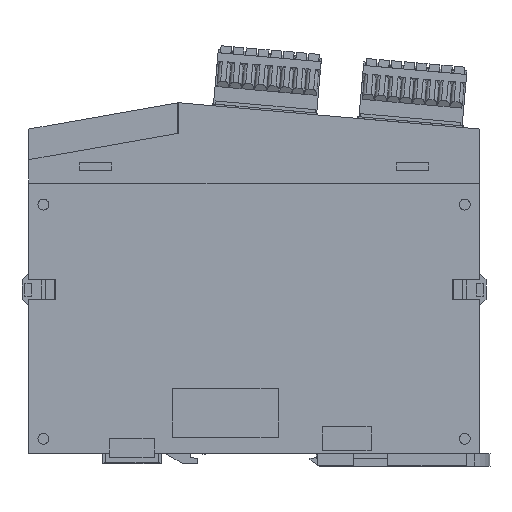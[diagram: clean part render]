
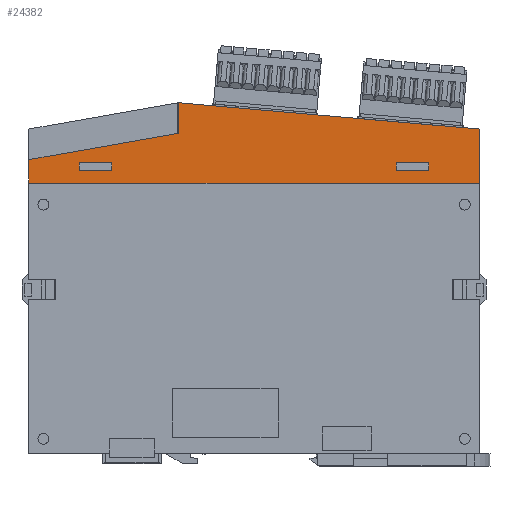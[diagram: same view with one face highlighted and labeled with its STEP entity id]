
A CAD part, left-side view. The second image highlights one B-rep face of the part: STEP entity #24382.
In plain terms, the highlighted planar face has unit normal (-1, 0, 0).
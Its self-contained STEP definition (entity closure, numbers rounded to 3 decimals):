
#7 = VERTEX_POINT ( 'NONE', #48104 ) ;
#1352 = CARTESIAN_POINT ( 'NONE',  ( -13.3, 48.5, 78.46 ) ) ;
#1357 = CARTESIAN_POINT ( 'NONE',  ( -13.3, 21.046, 97.309 ) ) ;
#1441 = DIRECTION ( 'NONE',  ( 0., 0., 1. ) ) ;
#1776 = EDGE_CURVE ( 'NONE', #34818, #30917, #39026, .T. ) ;
#1788 = CARTESIAN_POINT ( 'NONE',  ( -13.3, -48.5, 80.66 ) ) ;
#1815 = EDGE_CURVE ( 'NONE', #49473, #26073, #12560, .T. ) ;
#2195 = CARTESIAN_POINT ( 'NONE',  ( -13.3, 21.046, 88.809 ) ) ;
#2214 = DIRECTION ( 'NONE',  ( 0., 1., 0. ) ) ;
#2391 = VERTEX_POINT ( 'NONE', #29651 ) ;
#2412 = CARTESIAN_POINT ( 'NONE',  ( -13.3, 48.5, 80.66 ) ) ;
#2480 = VECTOR ( 'NONE', #32826, 1000. ) ;
#2578 = VERTEX_POINT ( 'NONE', #13145 ) ;
#2825 = EDGE_CURVE ( 'NONE', #34818, #26073, #39513, .T. ) ;
#3090 = EDGE_CURVE ( 'NONE', #30917, #31372, #48653, .T. ) ;
#3717 = AXIS2_PLACEMENT_3D ( 'NONE', #6797, #33231, #2214 ) ;
#4316 = ORIENTED_EDGE ( 'NONE', *, *, #1776, .T. ) ;
#4369 = DIRECTION ( 'NONE',  ( 0., 0.985, -0.174 ) ) ;
#4380 = CARTESIAN_POINT ( 'NONE',  ( -13.3, 21.046, 88.809 ) ) ;
#4781 = LINE ( 'NONE', #47607, #37965 ) ;
#4862 = ORIENTED_EDGE ( 'NONE', *, *, #37850, .F. ) ;
#6797 = CARTESIAN_POINT ( 'NONE',  ( -13.3, 62.5, 90. ) ) ;
#9158 = CARTESIAN_POINT ( 'NONE',  ( -13.3, 61.046, 81.756 ) ) ;
#9297 = EDGE_CURVE ( 'NONE', #2578, #23204, #44985, .T. ) ;
#9489 = LINE ( 'NONE', #21523, #39430 ) ;
#10039 = EDGE_CURVE ( 'NONE', #29072, #2391, #23616, .T. ) ;
#10473 = VECTOR ( 'NONE', #37293, 1000. ) ;
#11063 = DIRECTION ( 'NONE',  ( 0., 1., 0. ) ) ;
#11320 = LINE ( 'NONE', #15157, #12838 ) ;
#11544 = CARTESIAN_POINT ( 'NONE',  ( -13.3, 48.5, 78.46 ) ) ;
#11700 = CARTESIAN_POINT ( 'NONE',  ( -13.3, -62.5, 75. ) ) ;
#12560 = LINE ( 'NONE', #32582, #2480 ) ;
#12617 = DIRECTION ( 'NONE',  ( 0., 1., 0. ) ) ;
#12838 = VECTOR ( 'NONE', #11063, 1000. ) ;
#12917 = ORIENTED_EDGE ( 'NONE', *, *, #39303, .T. ) ;
#13031 = VECTOR ( 'NONE', #35673, 1000. ) ;
#13145 = CARTESIAN_POINT ( 'NONE',  ( -13.3, 48.5, 80.66 ) ) ;
#14216 = CARTESIAN_POINT ( 'NONE',  ( -13.3, 39.5, 80.66 ) ) ;
#14682 = ORIENTED_EDGE ( 'NONE', *, *, #37657, .T. ) ;
#15157 = CARTESIAN_POINT ( 'NONE',  ( -13.3, 62.5, 75. ) ) ;
#15280 = DIRECTION ( 'NONE',  ( 0., 1., 0. ) ) ;
#15356 = EDGE_LOOP ( 'NONE', ( #4862, #28917, #28782, #47891, #4316, #29160, #15896 ) ) ;
#15896 = ORIENTED_EDGE ( 'NONE', *, *, #28448, .T. ) ;
#15934 = ORIENTED_EDGE ( 'NONE', *, *, #27019, .T. ) ;
#16213 = CARTESIAN_POINT ( 'NONE',  ( -13.3, -48.5, 78.46 ) ) ;
#17586 = FACE_BOUND ( 'NONE', #48205, .T. ) ;
#17682 = DIRECTION ( 'NONE',  ( 0., -1., 0. ) ) ;
#18101 = CARTESIAN_POINT ( 'NONE',  ( -13.3, 62.5, 90. ) ) ;
#18131 = LINE ( 'NONE', #49683, #49697 ) ;
#18151 = VECTOR ( 'NONE', #45281, 1000. ) ;
#19357 = VERTEX_POINT ( 'NONE', #11700 ) ;
#20913 = CARTESIAN_POINT ( 'NONE',  ( -13.3, -39.5, 78.46 ) ) ;
#21000 = ORIENTED_EDGE ( 'NONE', *, *, #9297, .T. ) ;
#21422 = FACE_BOUND ( 'NONE', #25649, .T. ) ;
#21523 = CARTESIAN_POINT ( 'NONE',  ( -13.3, -39.5, 80.66 ) ) ;
#21686 = LINE ( 'NONE', #18101, #18151 ) ;
#22660 = VECTOR ( 'NONE', #12617, 1000. ) ;
#23204 = VERTEX_POINT ( 'NONE', #14216 ) ;
#23616 = LINE ( 'NONE', #1788, #26784 ) ;
#24382 = ADVANCED_FACE ( 'NONE', ( #17586, #21422, #41936 ), #37075, .F. ) ;
#24758 = LINE ( 'NONE', #40411, #40853 ) ;
#24788 = DIRECTION ( 'NONE',  ( 0., 0.985, -0.174 ) ) ;
#25249 = VERTEX_POINT ( 'NONE', #11544 ) ;
#25649 = EDGE_LOOP ( 'NONE', ( #12917, #41841, #37842, #49588 ) ) ;
#26073 = VERTEX_POINT ( 'NONE', #1357 ) ;
#26569 = CARTESIAN_POINT ( 'NONE',  ( -13.3, 62.5, 81.5 ) ) ;
#26784 = VECTOR ( 'NONE', #17682, 1000. ) ;
#27019 = EDGE_CURVE ( 'NONE', #23204, #35793, #18131, .T. ) ;
#28338 = VECTOR ( 'NONE', #15280, 1000. ) ;
#28448 = EDGE_CURVE ( 'NONE', #31372, #7, #21686, .T. ) ;
#28782 = ORIENTED_EDGE ( 'NONE', *, *, #1815, .T. ) ;
#28917 = ORIENTED_EDGE ( 'NONE', *, *, #34674, .T. ) ;
#29072 = VERTEX_POINT ( 'NONE', #34959 ) ;
#29160 = ORIENTED_EDGE ( 'NONE', *, *, #3090, .T. ) ;
#29509 = EDGE_CURVE ( 'NONE', #25249, #2578, #50281, .T. ) ;
#29651 = CARTESIAN_POINT ( 'NONE',  ( -13.3, -48.5, 80.66 ) ) ;
#29709 = DIRECTION ( 'NONE',  ( 0., 0., 1. ) ) ;
#30278 = CARTESIAN_POINT ( 'NONE',  ( -13.3, 48.5, 80.66 ) ) ;
#30917 = VERTEX_POINT ( 'NONE', #50751 ) ;
#31166 = LINE ( 'NONE', #42966, #28338 ) ;
#31372 = VERTEX_POINT ( 'NONE', #26569 ) ;
#32582 = CARTESIAN_POINT ( 'NONE',  ( -13.3, 61.55, 100.853 ) ) ;
#32726 = DIRECTION ( 'NONE',  ( 0., 0., -1. ) ) ;
#32729 = VECTOR ( 'NONE', #24788, 1000. ) ;
#32826 = DIRECTION ( 'NONE',  ( 0., 0.996, 0.087 ) ) ;
#33231 = DIRECTION ( 'NONE',  ( 1., 0., 0. ) ) ;
#33604 = VECTOR ( 'NONE', #4369, 1000. ) ;
#34674 = EDGE_CURVE ( 'NONE', #19357, #49473, #4781, .T. ) ;
#34818 = VERTEX_POINT ( 'NONE', #2195 ) ;
#34959 = CARTESIAN_POINT ( 'NONE',  ( -13.3, -39.5, 80.66 ) ) ;
#35456 = ORIENTED_EDGE ( 'NONE', *, *, #29509, .T. ) ;
#35673 = DIRECTION ( 'NONE',  ( 0., 0., 1. ) ) ;
#35793 = VERTEX_POINT ( 'NONE', #40942 ) ;
#37045 = VECTOR ( 'NONE', #42076, 1000. ) ;
#37056 = EDGE_CURVE ( 'NONE', #49676, #42625, #31166, .T. ) ;
#37075 = PLANE ( 'NONE',  #3717 ) ;
#37279 = CARTESIAN_POINT ( 'NONE',  ( -13.3, -62.5, 90. ) ) ;
#37293 = DIRECTION ( 'NONE',  ( 0., -1., 0. ) ) ;
#37657 = EDGE_CURVE ( 'NONE', #35793, #25249, #40085, .T. ) ;
#37842 = ORIENTED_EDGE ( 'NONE', *, *, #47996, .T. ) ;
#37850 = EDGE_CURVE ( 'NONE', #19357, #7, #11320, .T. ) ;
#37965 = VECTOR ( 'NONE', #1441, 1000. ) ;
#39026 = LINE ( 'NONE', #39506, #33604 ) ;
#39303 = EDGE_CURVE ( 'NONE', #42625, #29072, #9489, .T. ) ;
#39430 = VECTOR ( 'NONE', #29709, 1000. ) ;
#39506 = CARTESIAN_POINT ( 'NONE',  ( -13.3, 62.5, 81.5 ) ) ;
#39513 = LINE ( 'NONE', #4380, #13031 ) ;
#40085 = LINE ( 'NONE', #1352, #22660 ) ;
#40411 = CARTESIAN_POINT ( 'NONE',  ( -13.3, -48.5, 80.66 ) ) ;
#40853 = VECTOR ( 'NONE', #32726, 1000. ) ;
#40942 = CARTESIAN_POINT ( 'NONE',  ( -13.3, 39.5, 78.46 ) ) ;
#41841 = ORIENTED_EDGE ( 'NONE', *, *, #10039, .T. ) ;
#41936 = FACE_OUTER_BOUND ( 'NONE', #15356, .T. ) ;
#42076 = DIRECTION ( 'NONE',  ( 0., 0., 1. ) ) ;
#42490 = DIRECTION ( 'NONE',  ( 0., 0., -1. ) ) ;
#42625 = VERTEX_POINT ( 'NONE', #20913 ) ;
#42966 = CARTESIAN_POINT ( 'NONE',  ( -13.3, -48.5, 78.46 ) ) ;
#44985 = LINE ( 'NONE', #2412, #10473 ) ;
#45281 = DIRECTION ( 'NONE',  ( 0., 0., -1. ) ) ;
#47607 = CARTESIAN_POINT ( 'NONE',  ( -13.3, -62.5, 90. ) ) ;
#47891 = ORIENTED_EDGE ( 'NONE', *, *, #2825, .F. ) ;
#47996 = EDGE_CURVE ( 'NONE', #2391, #49676, #24758, .T. ) ;
#48104 = CARTESIAN_POINT ( 'NONE',  ( -13.3, 62.5, 75. ) ) ;
#48205 = EDGE_LOOP ( 'NONE', ( #14682, #35456, #21000, #15934 ) ) ;
#48653 = LINE ( 'NONE', #9158, #32729 ) ;
#49473 = VERTEX_POINT ( 'NONE', #37279 ) ;
#49588 = ORIENTED_EDGE ( 'NONE', *, *, #37056, .T. ) ;
#49676 = VERTEX_POINT ( 'NONE', #16213 ) ;
#49683 = CARTESIAN_POINT ( 'NONE',  ( -13.3, 39.5, 80.66 ) ) ;
#49697 = VECTOR ( 'NONE', #42490, 1000. ) ;
#50281 = LINE ( 'NONE', #30278, #37045 ) ;
#50751 = CARTESIAN_POINT ( 'NONE',  ( -13.3, 21.2, 88.782 ) ) ;
